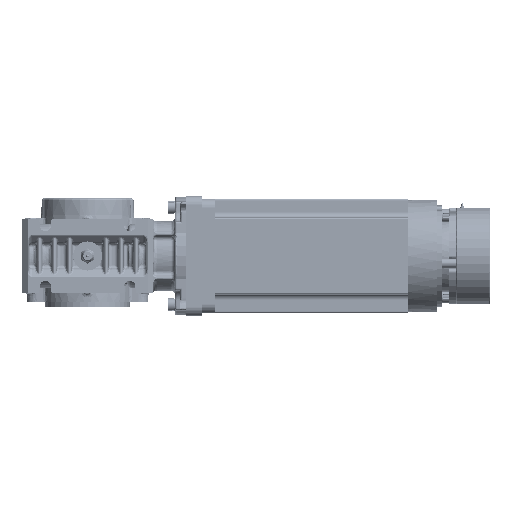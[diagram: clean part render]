
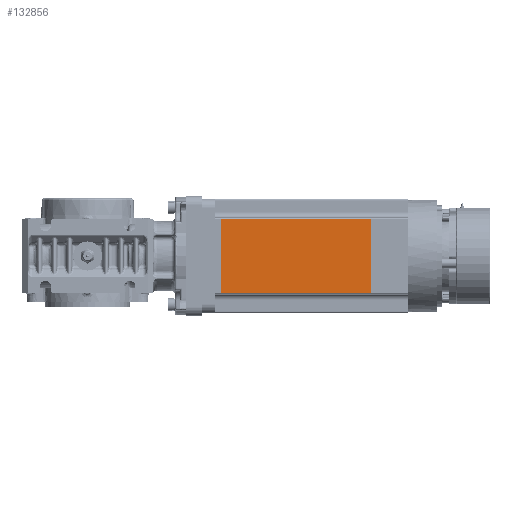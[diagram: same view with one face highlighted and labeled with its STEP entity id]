
A CAD part, front view. The second image highlights one B-rep face of the part: STEP entity #132856.
In plain terms, the highlighted planar face has unit normal (0, -1, 0).
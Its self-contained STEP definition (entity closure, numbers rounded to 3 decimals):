
#4112 = ORIENTED_EDGE ( 'NONE', *, *, #335703, .F. ) ;
#6515 = ORIENTED_EDGE ( 'NONE', *, *, #103372, .T. ) ;
#15843 = CARTESIAN_POINT ( 'NONE',  ( -46.84, 1.5, -12.5 ) ) ;
#32518 = VERTEX_POINT ( 'NONE', #15843 ) ;
#40872 = CARTESIAN_POINT ( 'NONE',  ( 53.16, 1.5, -51.5 ) ) ;
#41769 = ORIENTED_EDGE ( 'NONE', *, *, #304323, .T. ) ;
#46477 = CARTESIAN_POINT ( 'NONE',  ( 33.16, 1.5, -6.5 ) ) ;
#52381 = DIRECTION ( 'NONE',  ( 0., 0., -1. ) ) ;
#67670 = EDGE_LOOP ( 'NONE', ( #4112, #6515, #161167, #41769 ) ) ;
#68455 = VECTOR ( 'NONE', #52381, 1000. ) ;
#82042 = DIRECTION ( 'NONE',  ( 0., -1., 0. ) ) ;
#92227 = CARTESIAN_POINT ( 'NONE',  ( -46.84, 1.5, -6.5 ) ) ;
#103372 = EDGE_CURVE ( 'NONE', #174950, #32518, #198468, .T. ) ;
#119430 = VECTOR ( 'NONE', #243529, 1000. ) ;
#132856 = ADVANCED_FACE ( 'NONE', ( #207408 ), #329090, .T. ) ;
#139605 = VECTOR ( 'NONE', #283825, 1000. ) ;
#161167 = ORIENTED_EDGE ( 'NONE', *, *, #202388, .F. ) ;
#172474 = CARTESIAN_POINT ( 'NONE',  ( -46.84, 1.5, -51.5 ) ) ;
#174950 = VERTEX_POINT ( 'NONE', #370152 ) ;
#198468 = LINE ( 'NONE', #228451, #206671 ) ;
#202388 = EDGE_CURVE ( 'NONE', #245412, #32518, #309291, .T. ) ;
#206671 = VECTOR ( 'NONE', #320136, 1000. ) ;
#207408 = FACE_OUTER_BOUND ( 'NONE', #67670, .T. ) ;
#223425 = VERTEX_POINT ( 'NONE', #289815 ) ;
#228451 = CARTESIAN_POINT ( 'NONE',  ( -49.84, 1.5, -12.5 ) ) ;
#243529 = DIRECTION ( 'NONE',  ( 0., 0., 1. ) ) ;
#245412 = VERTEX_POINT ( 'NONE', #172474 ) ;
#251928 = LINE ( 'NONE', #40872, #139605 ) ;
#268877 = AXIS2_PLACEMENT_3D ( 'NONE', #375590, #82042, #325111 ) ;
#283825 = DIRECTION ( 'NONE',  ( 1., 0., 0. ) ) ;
#289815 = CARTESIAN_POINT ( 'NONE',  ( 33.16, 1.5, -51.5 ) ) ;
#304323 = EDGE_CURVE ( 'NONE', #245412, #223425, #251928, .T. ) ;
#309291 = LINE ( 'NONE', #92227, #119430 ) ;
#319483 = LINE ( 'NONE', #46477, #68455 ) ;
#320136 = DIRECTION ( 'NONE',  ( -1., 0., 0. ) ) ;
#325111 = DIRECTION ( 'NONE',  ( 1., 0., 0. ) ) ;
#329090 = PLANE ( 'NONE',  #268877 ) ;
#335703 = EDGE_CURVE ( 'NONE', #174950, #223425, #319483, .T. ) ;
#370152 = CARTESIAN_POINT ( 'NONE',  ( 33.16, 1.5, -12.5 ) ) ;
#375590 = CARTESIAN_POINT ( 'NONE',  ( 53.16, 1.5, -6.5 ) ) ;
